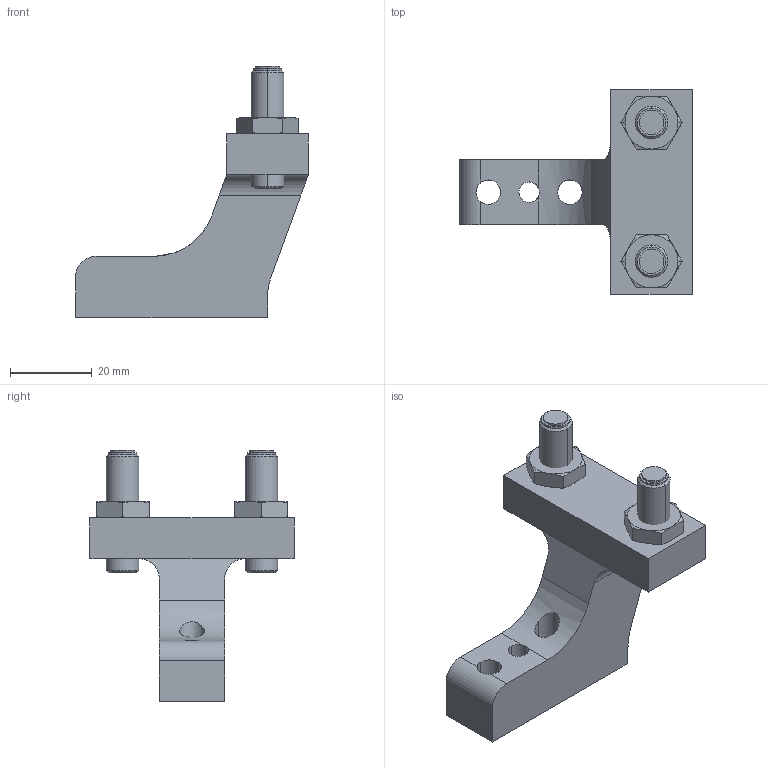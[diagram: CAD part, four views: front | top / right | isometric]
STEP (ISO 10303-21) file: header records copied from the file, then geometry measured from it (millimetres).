
FILE_DESCRIPTION(('STEP AP214'),'1');
FILE_NAME('EGT242_1705133_RD30_K40A31_V_S.CATPart.stp','2015-09-14T13:15:17',('3D-Tool'),(' '),'Spatial InterOp 3D',' ',' ');
FILE_SCHEMA(('automotive_design'));
Length unit declared in the file: millimetre
Products named in the file (5): EGT242_1705133_RD30_K40A31_V_S|PartBody ( *SOL132904 - wsp *MASTER -  -Non Smart-  )|Solid.1 (  with JELE 1676 : from *SOL132904 - wsp *MASTER -  ) ( Brep from *SOL132904 ); EGT242_1705133_RD30_K40A31_V_S|Body.3 ( *SOL132907 - wsp *MASTER -  -Non Smart-  )|Solid.3 (  with JELE 2559 : from *SOL132907 - wsp *MASTER -  ) ( Brep from *SOL132907 ); EGT242_1705133_RD30_K40A31_V_S|Body.4 ( *SOL132908 - wsp *MASTER -  -Non Smart-  )|Solid.4 (  with JELE 2929 : from *SOL132908 - wsp *MASTER -  ) ( Brep from *SOL132908 ); EGT242_1705133_RD30_K40A31_V_S|Body.5 ( *SOL132909 - wsp *MASTER -  -Non Smart-  )|Solid.5 (  with JELE 3177 : from *SOL132909 - wsp *MASTER -  ) ( Brep from *SOL132909 ); EGT242_1705133_RD30_K40A31_V_S|Body.6 ( *SOL132910 - wsp *MASTER -  -Non Smart-  )|Solid.6 (  with JELE 3371 : from *SOL132910 - wsp *MASTER -  ) ( Brep from *SOL132910 )
Bounding box: 57 x 50 x 61.5 mm (x, y, z)
Volume: 29863.9 mm3; surface area: 11491.4 mm2
Topology: 5 solids, 5 shells, 125 faces, 340 edges, 228 vertices
Faces by surface type: plane 52, cone 40, cylinder 33
Entity records: 5422 total; most frequent: CARTESIAN_POINT 1098, ORIENTED_EDGE 680, DIRECTION 664, EDGE_CURVE 340, AXIS2_PLACEMENT_3D 248, VERTEX_POINT 228, LINE 168, VECTOR 168
